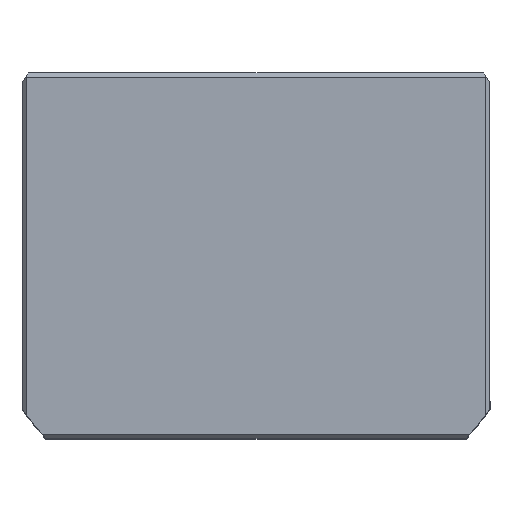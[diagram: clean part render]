
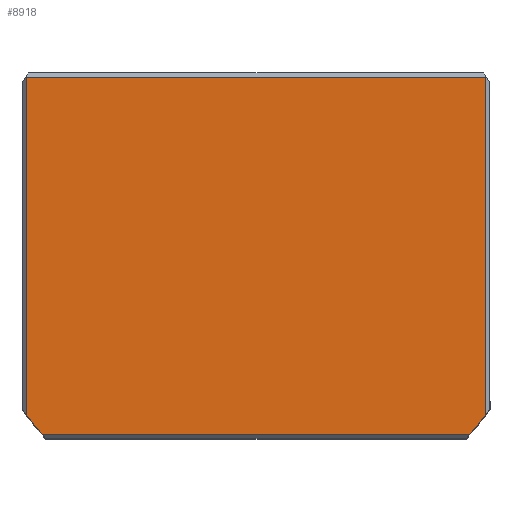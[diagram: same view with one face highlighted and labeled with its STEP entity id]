
A CAD part, top view. The second image highlights one B-rep face of the part: STEP entity #8918.
In plain terms, the highlighted planar face has unit normal (0, 0, 1) as drawn and (0, 0, -1) by its records, which use the part's own axes.
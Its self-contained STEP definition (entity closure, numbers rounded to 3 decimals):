
#77 = DIRECTION ( 'NONE',  ( 1., 0., 0. ) ) ;
#598 = DIRECTION ( 'NONE',  ( 0., 0., 1. ) ) ;
#964 = DIRECTION ( 'NONE',  ( -1., 0., 0. ) ) ;
#1110 = ORIENTED_EDGE ( 'NONE', *, *, #5597, .T. ) ;
#1446 = ORIENTED_EDGE ( 'NONE', *, *, #12666, .T. ) ;
#1580 = VECTOR ( 'NONE', #77, 1000. ) ;
#1866 = FACE_OUTER_BOUND ( 'NONE', #10526, .T. ) ;
#1989 = PLANE ( 'NONE',  #12917 ) ;
#2060 = LINE ( 'NONE', #10366, #1580 ) ;
#2380 = ORIENTED_EDGE ( 'NONE', *, *, #16194, .F. ) ;
#2457 = VERTEX_POINT ( 'NONE', #11623 ) ;
#2502 = CARTESIAN_POINT ( 'NONE',  ( -52.098, 43.5, 0. ) ) ;
#2596 = ORIENTED_EDGE ( 'NONE', *, *, #8959, .F. ) ;
#2723 = VERTEX_POINT ( 'NONE', #8874 ) ;
#3023 = CARTESIAN_POINT ( 'NONE',  ( 56., 0., 0. ) ) ;
#3285 = VERTEX_POINT ( 'NONE', #10829 ) ;
#3307 = EDGE_CURVE ( 'NONE', #2457, #13277, #11665, .T. ) ;
#3619 = VERTEX_POINT ( 'NONE', #13426 ) ;
#3776 = VECTOR ( 'NONE', #15757, 1000. ) ;
#3793 = VECTOR ( 'NONE', #13257, 1000. ) ;
#3855 = VECTOR ( 'NONE', #964, 1000. ) ;
#4232 = LINE ( 'NONE', #3023, #3793 ) ;
#4786 = DIRECTION ( 'NONE',  ( 0., 0., 1. ) ) ;
#5011 = CARTESIAN_POINT ( 'NONE',  ( -56., -43.5, 0. ) ) ;
#5346 = CIRCLE ( 'NONE', #13109, 69.5 ) ;
#5597 = EDGE_CURVE ( 'NONE', #10597, #3619, #2060, .T. ) ;
#6356 = CARTESIAN_POINT ( 'NONE',  ( 0., 0., 0. ) ) ;
#6416 = DIRECTION ( 'NONE',  ( 0., 0., 1. ) ) ;
#8726 = ORIENTED_EDGE ( 'NONE', *, *, #3307, .T. ) ;
#8874 = CARTESIAN_POINT ( 'NONE',  ( 56., 38.661, 0. ) ) ;
#8918 = ADVANCED_FACE ( 'NONE', ( #1866 ), #1989, .F. ) ;
#8959 = EDGE_CURVE ( 'NONE', #2723, #3619, #15503, .T. ) ;
#10366 = CARTESIAN_POINT ( 'NONE',  ( 0., 43.5, 0. ) ) ;
#10526 = EDGE_LOOP ( 'NONE', ( #2596, #14743, #8726, #1446, #2380, #1110 ) ) ;
#10597 = VERTEX_POINT ( 'NONE', #2502 ) ;
#10829 = CARTESIAN_POINT ( 'NONE',  ( -56., 38.661, 0. ) ) ;
#10852 = DIRECTION ( 'NONE',  ( 1., 0., 0. ) ) ;
#11260 = CARTESIAN_POINT ( 'NONE',  ( 0., -43.5, 0. ) ) ;
#11623 = CARTESIAN_POINT ( 'NONE',  ( 56., -43.5, 0. ) ) ;
#11665 = LINE ( 'NONE', #11260, #3855 ) ;
#11941 = AXIS2_PLACEMENT_3D ( 'NONE', #15276, #6416, #16704 ) ;
#12666 = EDGE_CURVE ( 'NONE', #13277, #3285, #15914, .T. ) ;
#12917 = AXIS2_PLACEMENT_3D ( 'NONE', #6356, #598, #10852 ) ;
#13109 = AXIS2_PLACEMENT_3D ( 'NONE', #13639, #4786, #15095 ) ;
#13257 = DIRECTION ( 'NONE',  ( 0., -1., 0. ) ) ;
#13277 = VERTEX_POINT ( 'NONE', #5011 ) ;
#13426 = CARTESIAN_POINT ( 'NONE',  ( 52.098, 43.5, 0. ) ) ;
#13639 = CARTESIAN_POINT ( 'NONE',  ( 0., -2.5, 0. ) ) ;
#14327 = CARTESIAN_POINT ( 'NONE',  ( -56., 0., 0. ) ) ;
#14743 = ORIENTED_EDGE ( 'NONE', *, *, #17375, .T. ) ;
#15095 = DIRECTION ( 'NONE',  ( 1., 0., 0. ) ) ;
#15276 = CARTESIAN_POINT ( 'NONE',  ( 0., -2.5, 0. ) ) ;
#15503 = CIRCLE ( 'NONE', #11941, 69.5 ) ;
#15757 = DIRECTION ( 'NONE',  ( 0., 1., 0. ) ) ;
#15914 = LINE ( 'NONE', #14327, #3776 ) ;
#16194 = EDGE_CURVE ( 'NONE', #10597, #3285, #5346, .T. ) ;
#16704 = DIRECTION ( 'NONE',  ( 1., 0., 0. ) ) ;
#17375 = EDGE_CURVE ( 'NONE', #2723, #2457, #4232, .T. ) ;
